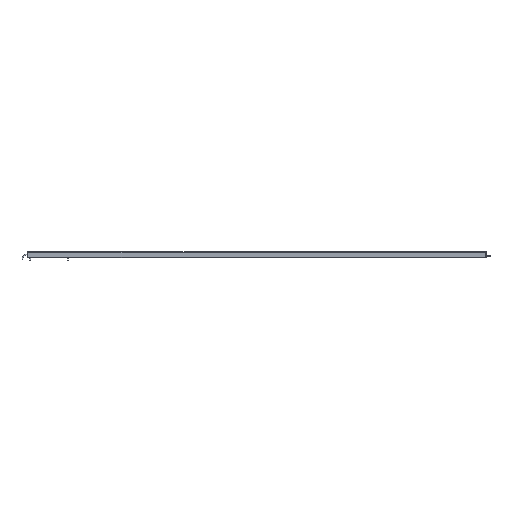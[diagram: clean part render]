
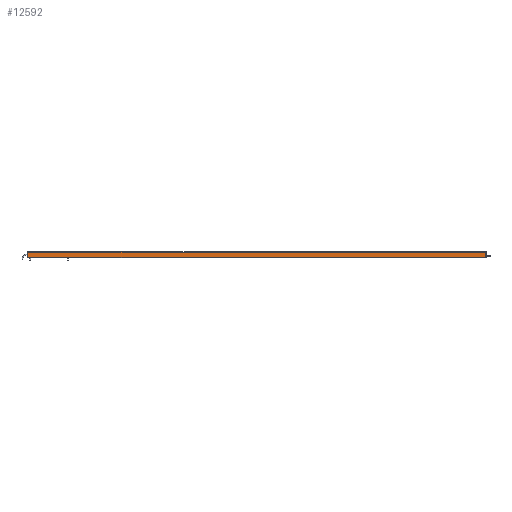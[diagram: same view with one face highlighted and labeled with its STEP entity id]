
A CAD part, left-side view. The second image highlights one B-rep face of the part: STEP entity #12592.
In plain terms, the highlighted planar face has unit normal (-1, 0, 0).
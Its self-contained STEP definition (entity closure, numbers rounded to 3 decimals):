
#49 = EDGE_CURVE ( 'NONE', #10894, #4823, #20504, .T. ) ;
#1528 = ORIENTED_EDGE ( 'NONE', *, *, #14460, .T. ) ;
#1550 = PLANE ( 'NONE',  #3758 ) ;
#2529 = CARTESIAN_POINT ( 'NONE',  ( -9., 0., 0.5 ) ) ;
#2773 = EDGE_LOOP ( 'NONE', ( #11969, #18280, #11211, #1528 ) ) ;
#2861 = CARTESIAN_POINT ( 'NONE',  ( -9., 2425., 28.5 ) ) ;
#3067 = CARTESIAN_POINT ( 'NONE',  ( -9., 2425., 28.5 ) ) ;
#3215 = DIRECTION ( 'NONE',  ( 0., 0., -1. ) ) ;
#3646 = LINE ( 'NONE', #19624, #14348 ) ;
#3758 = AXIS2_PLACEMENT_3D ( 'NONE', #2861, #19031, #4428 ) ;
#3883 = DIRECTION ( 'NONE',  ( 0., -1., 0. ) ) ;
#4288 = VECTOR ( 'NONE', #6111, 1000. ) ;
#4428 = DIRECTION ( 'NONE',  ( 0., -1., 0. ) ) ;
#4823 = VERTEX_POINT ( 'NONE', #15350 ) ;
#5211 = EDGE_CURVE ( 'NONE', #16143, #14572, #13355, .T. ) ;
#6111 = DIRECTION ( 'NONE',  ( 0., 0., -1. ) ) ;
#6471 = CARTESIAN_POINT ( 'NONE',  ( -9., 0., 28.5 ) ) ;
#9522 = EDGE_CURVE ( 'NONE', #10894, #16143, #13333, .T. ) ;
#10856 = VECTOR ( 'NONE', #20133, 1000. ) ;
#10894 = VERTEX_POINT ( 'NONE', #18562 ) ;
#11211 = ORIENTED_EDGE ( 'NONE', *, *, #49, .T. ) ;
#11556 = CARTESIAN_POINT ( 'NONE',  ( -9., 0., 28.5 ) ) ;
#11969 = ORIENTED_EDGE ( 'NONE', *, *, #5211, .F. ) ;
#12592 = ADVANCED_FACE ( 'NONE', ( #19034 ), #1550, .T. ) ;
#13333 = LINE ( 'NONE', #18581, #10856 ) ;
#13355 = LINE ( 'NONE', #6471, #18588 ) ;
#14348 = VECTOR ( 'NONE', #3883, 1000. ) ;
#14460 = EDGE_CURVE ( 'NONE', #4823, #14572, #3646, .T. ) ;
#14572 = VERTEX_POINT ( 'NONE', #2529 ) ;
#15350 = CARTESIAN_POINT ( 'NONE',  ( -9., 2425., 0.5 ) ) ;
#16143 = VERTEX_POINT ( 'NONE', #11556 ) ;
#18280 = ORIENTED_EDGE ( 'NONE', *, *, #9522, .F. ) ;
#18562 = CARTESIAN_POINT ( 'NONE',  ( -9., 2425., 28.5 ) ) ;
#18581 = CARTESIAN_POINT ( 'NONE',  ( -9., 2425., 28.5 ) ) ;
#18588 = VECTOR ( 'NONE', #3215, 1000. ) ;
#19031 = DIRECTION ( 'NONE',  ( -1., 0., 0. ) ) ;
#19034 = FACE_OUTER_BOUND ( 'NONE', #2773, .T. ) ;
#19624 = CARTESIAN_POINT ( 'NONE',  ( -9., 2425., 0.5 ) ) ;
#20133 = DIRECTION ( 'NONE',  ( 0., -1., 0. ) ) ;
#20504 = LINE ( 'NONE', #3067, #4288 ) ;
